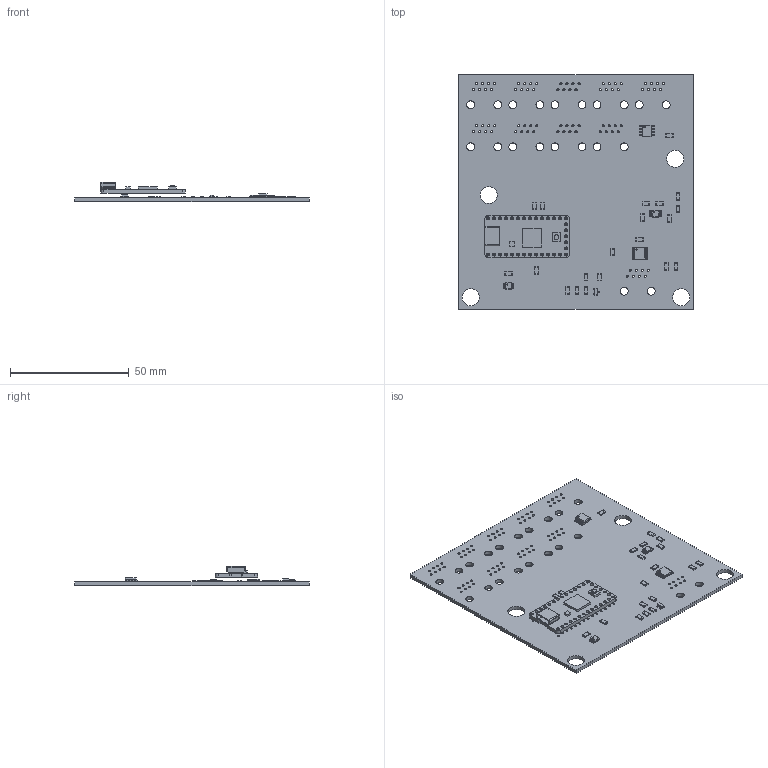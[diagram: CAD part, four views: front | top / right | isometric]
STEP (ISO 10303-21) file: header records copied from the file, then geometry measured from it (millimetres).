
FILE_DESCRIPTION(('KiCad electronic assembly'),'2;1');
FILE_NAME('TestBoard.step','2019-04-03T18:57:26',('An Author'),( 'A Company'),'Open CASCADE STEP processor 6.9', 'KiCad to STEP converter','Unknown');
FILE_SCHEMA(('AUTOMOTIVE_DESIGN { 1 0 10303 214 1 1 1 1 }'));
Length unit declared in the file: millimetre
Products named in the file (16): Open CASCADE STEP translator 6.9 1; 3727_ItsyBitsy_M0; COMPOUND; MSOP-8_3x3mm_P0.65mm; SOLID; SOIC-8_3.9x4.9mm_P1.27mm; SSOP-8_2.95x2.8mm_P0.65mm; TSSOP-16_4.4x5mm_P0.65mm; SOT-23; R_1206_3216Metric
Assembly tree (34 placements, depth 3):
  Open CASCADE STEP translator 6.9 1
    3727_ItsyBitsy_M0
      COMPOUND
    MSOP-8_3x3mm_P0.65mm
      SOLID
    SOIC-8_3.9x4.9mm_P1.27mm
      SOLID
    SSOP-8_2.95x2.8mm_P0.65mm
      SOLID
    TSSOP-16_4.4x5mm_P0.65mm
      SOLID
    SOT-23
      SOLID
    R_1206_3216Metric  x20
      SOLID
    COMPOUND
Bounding box: 99.06 x 99.06 x 8.25 mm (x, y, z)
Volume: 16259.9 mm3; surface area: 23018.3 mm2
Topology: 31 solids, 31 shells, 1561 faces, 4113 edges, 2620 vertices
Faces by surface type: plane 887, cylinder 523, bspline 151
Full cylindrical faces by diameter (mm): 0.5 x3, 0.6 x1, 0.762 x33, 0.9 x80, 1.27 x33, 2 x1, 3.3 x20, 7.184 x4
Entity records: 79712 total; most frequent: CARTESIAN_POINT 17083, DIRECTION 10294, LINE 6434, VECTOR 6434, ORIENTED_EDGE 5642, PCURVE 5642, DEFINITIONAL_REPRESENTATION 5642, EDGE_CURVE 2821
